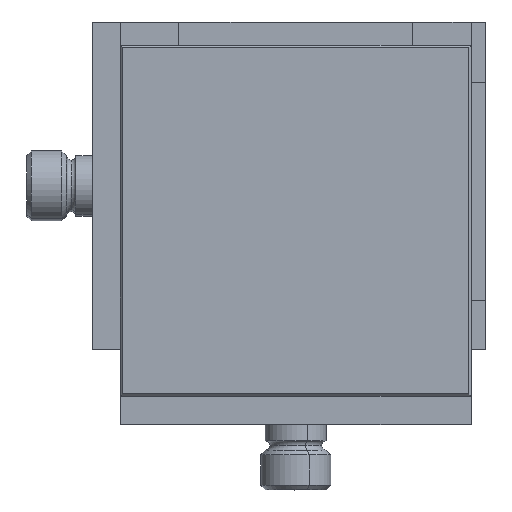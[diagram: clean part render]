
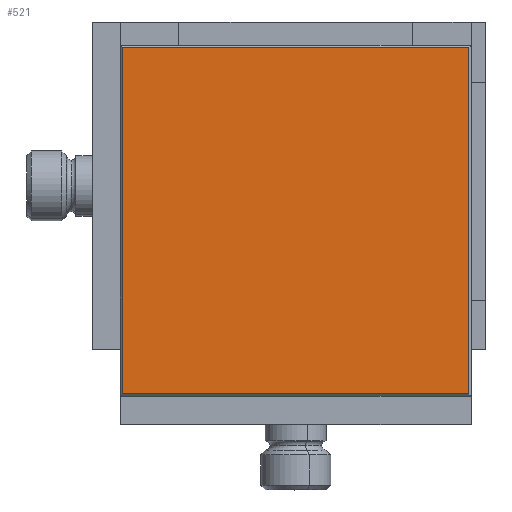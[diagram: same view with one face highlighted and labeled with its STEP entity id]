
A CAD part, top view. The second image highlights one B-rep face of the part: STEP entity #521.
In plain terms, the highlighted planar face has unit normal (0, 0, 1).
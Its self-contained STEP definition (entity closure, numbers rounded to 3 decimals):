
#521=ADVANCED_FACE('',(#1279),#1280,.F.);
#1279=FACE_OUTER_BOUND('',#2401,.T.);
#1280=PLANE('',#2402);
#2401=EDGE_LOOP('',(#3597,#3598,#3599,#3600));
#2402=AXIS2_PLACEMENT_3D('',#3601,#3602,#3603);
#3597=ORIENTED_EDGE('',*,*,#6232,.T.);
#3598=ORIENTED_EDGE('',*,*,#6233,.T.);
#3599=ORIENTED_EDGE('',*,*,#6190,.T.);
#3600=ORIENTED_EDGE('',*,*,#6234,.T.);
#3601=CARTESIAN_POINT('',(75.,-80.004,27.));
#3602=DIRECTION('',(0.,0.,-1.0));
#3603=DIRECTION('',(0.0,-1.0,0.));
#6190=EDGE_CURVE('',#7310,#7308,#7311,.T.);
#6232=EDGE_CURVE('',#7363,#7364,#7365,.T.);
#6233=EDGE_CURVE('',#7364,#7310,#7366,.T.);
#6234=EDGE_CURVE('',#7308,#7363,#7367,.T.);
#7308=VERTEX_POINT('',#8990);
#7310=VERTEX_POINT('',#8993);
#7311=LINE('',#8994,#8995);
#7363=VERTEX_POINT('',#9172);
#7364=VERTEX_POINT('',#9173);
#7365=LINE('',#9174,#9175);
#7366=LINE('',#9176,#9177);
#7367=LINE('',#9178,#9179);
#8990=CARTESIAN_POINT('',(0.5,-5.504,27.));
#8993=CARTESIAN_POINT('',(74.5,-5.504,27.));
#8994=CARTESIAN_POINT('',(75.,-5.504,27.));
#8995=VECTOR('',#11412,1000.0);
#9172=CARTESIAN_POINT('',(0.5,-79.504,27.));
#9173=CARTESIAN_POINT('',(74.5,-79.504,27.));
#9174=CARTESIAN_POINT('',(75.,-79.504,27.));
#9175=VECTOR('',#11448,1000.0);
#9176=CARTESIAN_POINT('',(74.5,-80.004,27.));
#9177=VECTOR('',#11449,1000.0);
#9178=CARTESIAN_POINT('',(0.5,-80.004,27.));
#9179=VECTOR('',#11450,1000.0);
#11412=DIRECTION('',(-1.0,0.,0.));
#11448=DIRECTION('',(1.0,0.,0.));
#11449=DIRECTION('',(0.,1.0,0.));
#11450=DIRECTION('',(0.,-1.0,0.));
